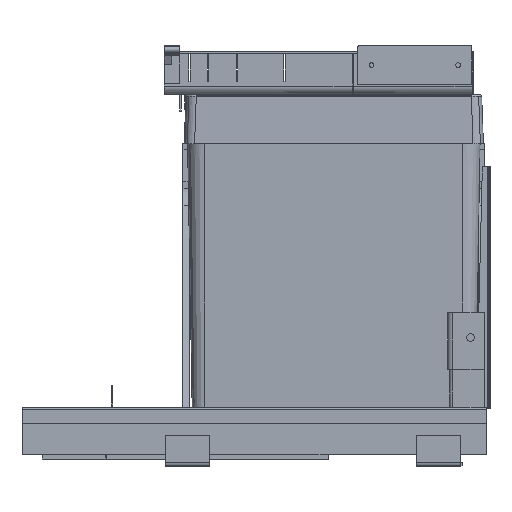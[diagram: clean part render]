
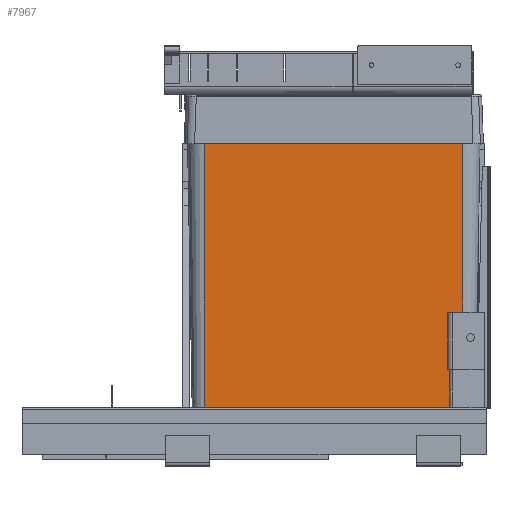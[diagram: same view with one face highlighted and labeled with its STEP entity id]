
A CAD part, left-side view. The second image highlights one B-rep face of the part: STEP entity #7967.
In plain terms, the highlighted planar face has unit normal (-1, 0, -0.018).
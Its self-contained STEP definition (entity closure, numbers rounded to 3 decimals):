
#7967=ADVANCED_FACE('',(#14365),#14366,.T.);
#14365=FACE_OUTER_BOUND('',#24442,.T.);
#14366=PLANE('',#24443);
#24442=EDGE_LOOP('',(#31831,#31832,#31833,#31834));
#24443=AXIS2_PLACEMENT_3D('',#31835,#31836,#31837);
#31831=ORIENTED_EDGE('',*,*,#43902,.T.);
#31832=ORIENTED_EDGE('',*,*,#43941,.F.);
#31833=ORIENTED_EDGE('',*,*,#43942,.F.);
#31834=ORIENTED_EDGE('',*,*,#43934,.T.);
#31835=CARTESIAN_POINT('',(-236.8,28.2,21.6));
#31836=DIRECTION('',(-1.,0.,-0.017));
#31837=DIRECTION('',(0.,-1.0,0.0));
#43902=EDGE_CURVE('',#50591,#50588,#50592,.T.);
#43934=EDGE_CURVE('',#50645,#50591,#50646,.T.);
#43941=EDGE_CURVE('',#50657,#50588,#50658,.T.);
#43942=EDGE_CURVE('',#50645,#50657,#50659,.T.);
#50588=VERTEX_POINT('',#55732);
#50591=VERTEX_POINT('',#55735);
#50592=LINE('',#55736,#55737);
#50645=VERTEX_POINT('',#55824);
#50646=LINE('',#55825,#55826);
#50657=VERTEX_POINT('',#55867);
#50658=LINE('',#55868,#55869);
#50659=LINE('',#55870,#55871);
#55732=CARTESIAN_POINT('',(-242.954,326.6,374.17));
#55735=CARTESIAN_POINT('',(-242.954,28.2,374.17));
#55736=CARTESIAN_POINT('',(-242.954,102.8,374.17));
#55737=VECTOR('',#62032,10.0);
#55824=CARTESIAN_POINT('',(-237.622,28.2,68.7));
#55825=CARTESIAN_POINT('',(-236.8,28.2,21.6));
#55826=VECTOR('',#62076,10.0);
#55867=CARTESIAN_POINT('',(-237.622,326.6,68.7));
#55868=CARTESIAN_POINT('',(-236.8,326.6,21.6));
#55869=VECTOR('',#62086,10.0);
#55870=CARTESIAN_POINT('',(-237.622,14.1,68.7));
#55871=VECTOR('',#62087,10.0);
#62032=DIRECTION('',(0.,1.0,0.));
#62076=DIRECTION('',(-0.017,0.0,1.));
#62086=DIRECTION('',(-0.017,0.0,1.));
#62087=DIRECTION('',(0.,1.0,0.0));
